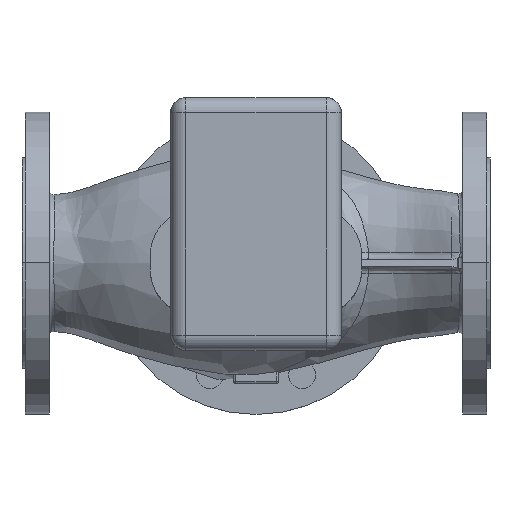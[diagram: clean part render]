
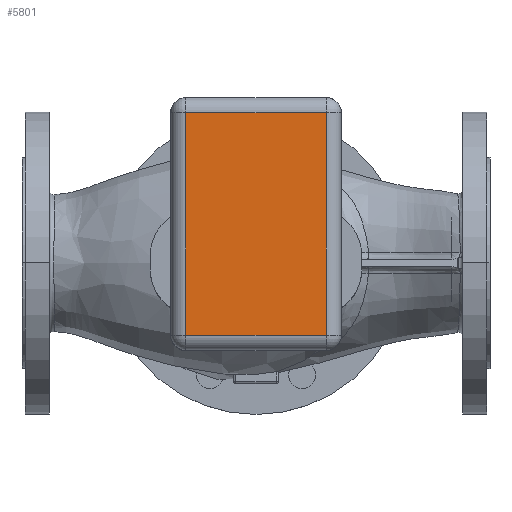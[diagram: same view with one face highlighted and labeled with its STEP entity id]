
A CAD part, top view. The second image highlights one B-rep face of the part: STEP entity #5801.
In plain terms, the highlighted planar face has unit normal (0, 0, 1).
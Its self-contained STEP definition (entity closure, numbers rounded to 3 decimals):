
#555 = VERTEX_POINT ( 'NONE', #12254 ) ;
#557 = EDGE_CURVE ( 'NONE', #4656, #555, #13331, .T. ) ;
#570 = CARTESIAN_POINT ( 'NONE',  ( 46.5, 109., 561.5 ) ) ;
#1625 = DIRECTION ( 'NONE',  ( 1., 0., 0. ) ) ;
#1734 = LINE ( 'NONE', #570, #6411 ) ;
#2293 = DIRECTION ( 'NONE',  ( 0., 0., 1. ) ) ;
#2965 = VECTOR ( 'NONE', #1625, 1000. ) ;
#3396 = PLANE ( 'NONE',  #5014 ) ;
#3568 = EDGE_LOOP ( 'NONE', ( #7508, #11880, #4654, #14178 ) ) ;
#4112 = CARTESIAN_POINT ( 'NONE',  ( 56.5, -48.5, 561.5 ) ) ;
#4654 = ORIENTED_EDGE ( 'NONE', *, *, #9797, .T. ) ;
#4656 = VERTEX_POINT ( 'NONE', #9560 ) ;
#4921 = LINE ( 'NONE', #4112, #2965 ) ;
#5014 = AXIS2_PLACEMENT_3D ( 'NONE', #14287, #2293, #11231 ) ;
#5801 = ADVANCED_FACE ( 'NONE', ( #13195 ), #3396, .T. ) ;
#5821 = LINE ( 'NONE', #10359, #6410 ) ;
#5922 = DIRECTION ( 'NONE',  ( 0., 1., 0. ) ) ;
#6286 = EDGE_CURVE ( 'NONE', #14467, #11273, #1734, .T. ) ;
#6410 = VECTOR ( 'NONE', #13553, 1000. ) ;
#6411 = VECTOR ( 'NONE', #5922, 1000. ) ;
#7508 = ORIENTED_EDGE ( 'NONE', *, *, #14043, .T. ) ;
#9051 = DIRECTION ( 'NONE',  ( 0., -1., 0. ) ) ;
#9560 = CARTESIAN_POINT ( 'NONE',  ( -46.5, 99., 561.5 ) ) ;
#9797 = EDGE_CURVE ( 'NONE', #11273, #4656, #5821, .T. ) ;
#10081 = CARTESIAN_POINT ( 'NONE',  ( 46.5, 99., 561.5 ) ) ;
#10359 = CARTESIAN_POINT ( 'NONE',  ( -56.5, 99., 561.5 ) ) ;
#11231 = DIRECTION ( 'NONE',  ( 1., 0., 0. ) ) ;
#11273 = VERTEX_POINT ( 'NONE', #10081 ) ;
#11880 = ORIENTED_EDGE ( 'NONE', *, *, #6286, .T. ) ;
#12254 = CARTESIAN_POINT ( 'NONE',  ( -46.5, -48.5, 561.5 ) ) ;
#12523 = CARTESIAN_POINT ( 'NONE',  ( 46.5, -48.5, 561.5 ) ) ;
#12884 = VECTOR ( 'NONE', #9051, 1000. ) ;
#13195 = FACE_OUTER_BOUND ( 'NONE', #3568, .T. ) ;
#13331 = LINE ( 'NONE', #14428, #12884 ) ;
#13553 = DIRECTION ( 'NONE',  ( -1., 0., 0. ) ) ;
#14043 = EDGE_CURVE ( 'NONE', #555, #14467, #4921, .T. ) ;
#14178 = ORIENTED_EDGE ( 'NONE', *, *, #557, .T. ) ;
#14287 = CARTESIAN_POINT ( 'NONE',  ( 0., 0., 561.5 ) ) ;
#14428 = CARTESIAN_POINT ( 'NONE',  ( -46.5, -58.5, 561.5 ) ) ;
#14467 = VERTEX_POINT ( 'NONE', #12523 ) ;
